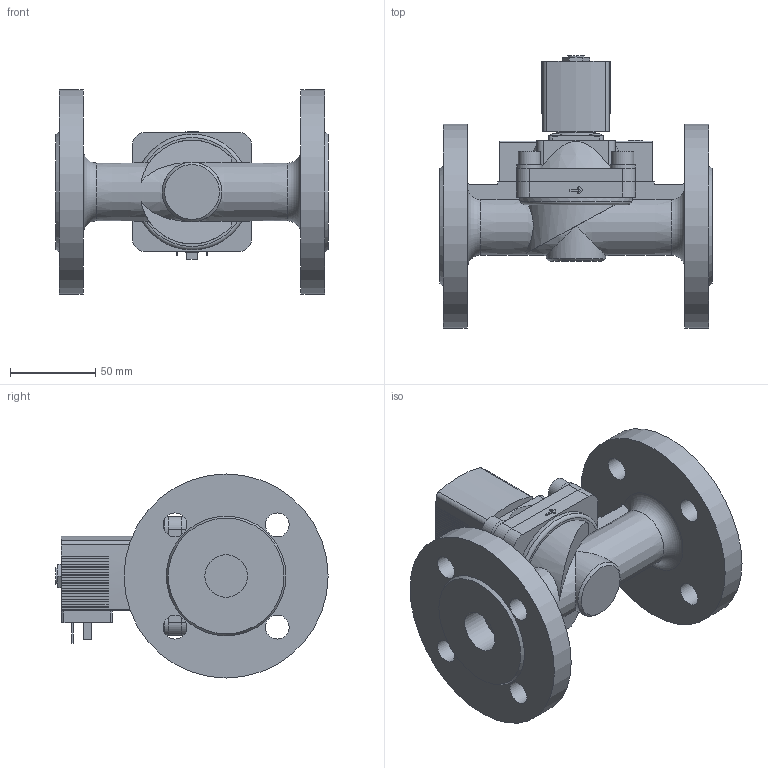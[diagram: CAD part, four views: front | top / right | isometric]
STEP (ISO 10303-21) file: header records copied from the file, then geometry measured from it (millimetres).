
FILE_DESCRIPTION(/* description */ ('STEP AP214'),/* implementation_level */ '2;1');
FILE_NAME(/* name */ '5404-382756-Servo-assisted_2_2_way_piston_valve',/* time_stamp */ '2024-02-29T14:12:54+01:00',/* author */ ('License CC BY-ND 4.0'),/* organization */ ('CADENAS'),/* preprocessor_version */ 'ST-DEVELOPER v19.3',/* originating_system */ 'PARTsolutions',/* authorisation */ ' ');
FILE_SCHEMA (('AUTOMOTIVE_DESIGN {1 0 10303 214 3 1 1}'));
Length unit declared in the file: millimetre
Products named in the file (4): 5404-382756-Servo-assisted 2/2 way piston valve; 5282g-FD0125VA100-2/2-Wege-Magnetventil_Gehaeuse; 5282d-25MSAU3N-2/2-Wege-Magnetventil_Deckel; AC10ex-6OO-Plan-Coil
Assembly tree (3 placements, depth 2):
  5404-382756-Servo-assisted 2/2 way piston valve
    5282g-FD0125VA100-2/2-Wege-Magnetventil_Gehaeuse
    5282d-25MSAU3N-2/2-Wege-Magnetventil_Deckel
    AC10ex-6OO-Plan-Coil
Bounding box: 160 x 160.1 x 120 mm (x, y, z)
Volume: 675478.8 mm3; surface area: 114609.7 mm2
Topology: 3 solids, 3 shells, 497 faces, 1365 edges, 909 vertices
Faces by surface type: plane 378, cylinder 95, cone 15, torus 9
Full cylindrical faces by diameter (mm): 2.013 x1, 4 x4, 7.5 x4, 7.6 x4, 9.74 x1, 13 x4, 14 x8, 14.8 x4, 21 x1, 25 x2, 35 x1, 120 x2
Entity records: 17742 total; most frequent: CARTESIAN_POINT 3014, ORIENTED_EDGE 2608, DIRECTION 2550, EDGE_CURVE 1304, LINE 952, VECTOR 952, VERTEX_POINT 894, AXIS2_PLACEMENT_3D 799
